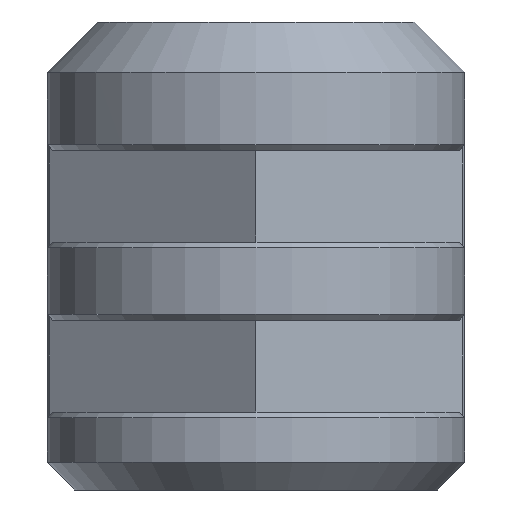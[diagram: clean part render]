
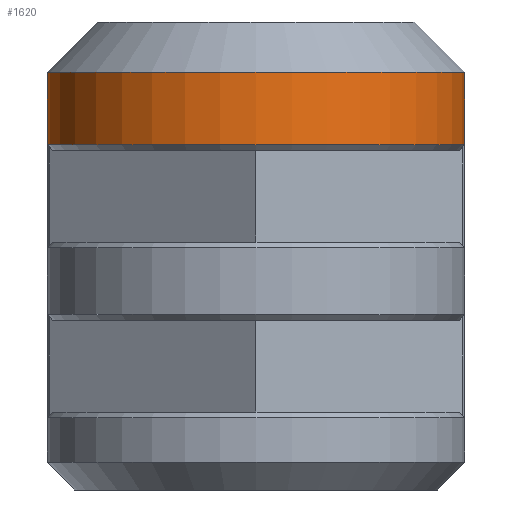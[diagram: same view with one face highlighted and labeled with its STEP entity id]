
A CAD part, left-side view. The second image highlights one B-rep face of the part: STEP entity #1620.
In plain terms, the highlighted cylindrical face has radius 7.5 mm (diameter 15 mm), a partial arc.
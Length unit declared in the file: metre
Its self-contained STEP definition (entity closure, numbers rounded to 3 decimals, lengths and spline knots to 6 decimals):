
#30=ELLIPSE('',#1742,0.010607,0.0075);
#31=ELLIPSE('',#1744,0.010607,0.0075);
#47=CIRCLE('',#1741,0.0075);
#48=CIRCLE('',#1743,0.0075);
#67=CYLINDRICAL_SURFACE('',#1740,0.0075);
#158=ORIENTED_EDGE('',*,*,#541,.T.);
#159=ORIENTED_EDGE('',*,*,#616,.T.);
#160=ORIENTED_EDGE('',*,*,#565,.F.);
#161=ORIENTED_EDGE('',*,*,#617,.T.);
#162=ORIENTED_EDGE('',*,*,#618,.T.);
#163=ORIENTED_EDGE('',*,*,#619,.T.);
#541=EDGE_CURVE('',#774,#773,#922,.T.);
#565=EDGE_CURVE('',#797,#798,#946,.T.);
#616=EDGE_CURVE('',#773,#798,#47,.F.);
#617=EDGE_CURVE('',#797,#830,#30,.F.);
#618=EDGE_CURVE('',#830,#829,#48,.F.);
#619=EDGE_CURVE('',#829,#774,#31,.F.);
#773=VERTEX_POINT('',#2301);
#774=VERTEX_POINT('',#2303);
#797=VERTEX_POINT('',#2350);
#798=VERTEX_POINT('',#2352);
#829=VERTEX_POINT('',#2426);
#830=VERTEX_POINT('',#2428);
#922=LINE('',#2302,#1121);
#946=LINE('',#2351,#1145);
#1121=VECTOR('',#1848,1.);
#1145=VECTOR('',#1874,1.);
#1332=EDGE_LOOP('',(#158,#159,#160,#161,#162,#163));
#1443=FACE_BOUND('',#1332,.T.);
#1620=ADVANCED_FACE('',(#1443),#67,.T.);
#1740=AXIS2_PLACEMENT_3D('',#2454,#1956,#1957);
#1741=AXIS2_PLACEMENT_3D('',#2455,#1958,#1959);
#1742=AXIS2_PLACEMENT_3D('',#2456,#1960,#1961);
#1743=AXIS2_PLACEMENT_3D('',#2457,#1962,#1963);
#1744=AXIS2_PLACEMENT_3D('',#2458,#1964,#1965);
#1848=DIRECTION('',(0.,0.,-1.));
#1874=DIRECTION('',(0.,0.,-1.));
#1956=DIRECTION('',(0.,0.,-1.));
#1957=DIRECTION('',(-1.,0.,0.));
#1958=DIRECTION('',(0.,0.,-1.));
#1959=DIRECTION('',(-1.,0.,0.));
#1960=DIRECTION('',(0.,0.707,-0.707));
#1961=DIRECTION('',(0.,-0.707,-0.707));
#1962=DIRECTION('',(0.,0.,1.));
#1963=DIRECTION('',(1.,0.,0.));
#1964=DIRECTION('',(0.,-0.707,-0.707));
#1965=DIRECTION('',(0.,0.707,-0.707));
#2301=CARTESIAN_POINT('',(-0.0225,0.0075,0.0124));
#2302=CARTESIAN_POINT('',(-0.0225,0.0075,0.015));
#2303=CARTESIAN_POINT('',(-0.0225,0.0075,0.014));
#2350=CARTESIAN_POINT('',(-0.0225,-0.0075,0.014));
#2351=CARTESIAN_POINT('',(-0.0225,-0.0075,0.015));
#2352=CARTESIAN_POINT('',(-0.0225,-0.0075,0.0124));
#2426=CARTESIAN_POINT('',(-0.018758,0.0065,0.015));
#2428=CARTESIAN_POINT('',(-0.018758,-0.0065,0.015));
#2454=CARTESIAN_POINT('',(-0.0225,0.,0.015));
#2455=CARTESIAN_POINT('',(-0.0225,0.,0.0124));
#2456=CARTESIAN_POINT('',(-0.0225,0.,0.0215));
#2457=CARTESIAN_POINT('',(-0.0225,0.,0.015));
#2458=CARTESIAN_POINT('',(-0.0225,0.,0.0215));
